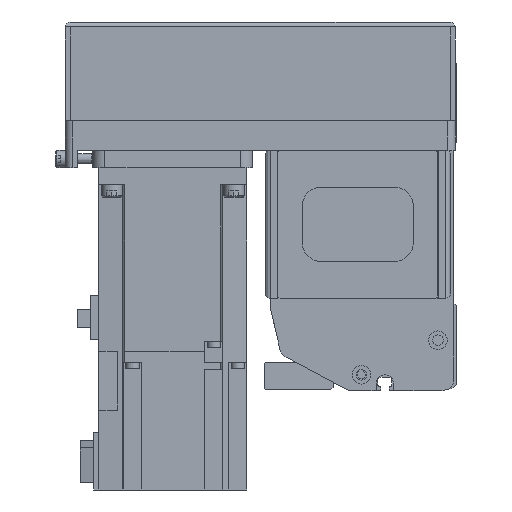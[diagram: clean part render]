
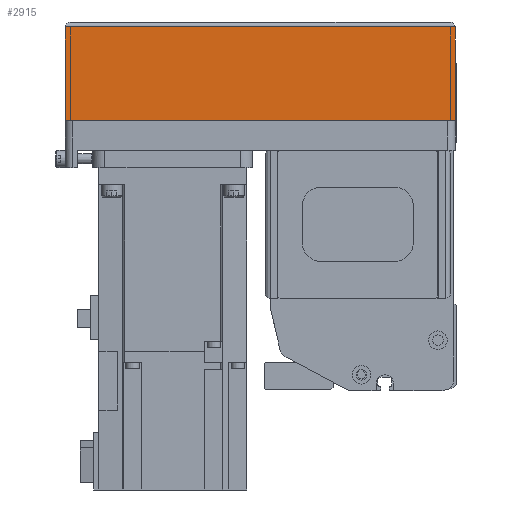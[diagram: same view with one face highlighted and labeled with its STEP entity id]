
A CAD part, left-side view. The second image highlights one B-rep face of the part: STEP entity #2915.
In plain terms, the highlighted planar face has unit normal (-1, 0, 0) as drawn and (0, 1, 0) by its records, which use the part's own axes.
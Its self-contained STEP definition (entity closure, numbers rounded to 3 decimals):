
#2915 = ADVANCED_FACE( '', ( #6126 ), #6127, .T. );
#6126 = FACE_OUTER_BOUND( '', #9495, .T. );
#6127 = PLANE( '', #9496 );
#9495 = EDGE_LOOP( '', ( #17595, #17596, #17597, #17598 ) );
#9496 = AXIS2_PLACEMENT_3D( '', #17599, #17600, #17601 );
#17595 = ORIENTED_EDGE( '', *, *, #21513, .F. );
#17596 = ORIENTED_EDGE( '', *, *, #22220, .F. );
#17597 = ORIENTED_EDGE( '', *, *, #22221, .T. );
#17598 = ORIENTED_EDGE( '', *, *, #22222, .T. );
#17599 = CARTESIAN_POINT( '', ( -158., 39., -50. ) );
#17600 = DIRECTION( '', ( 0., 1., 0. ) );
#17601 = DIRECTION( '', ( 0., 0., 1. ) );
#21513 = EDGE_CURVE( '', #22902, #24546, #26500, .T. );
#22220 = EDGE_CURVE( '', #25455, #22902, #27378, .T. );
#22221 = EDGE_CURVE( '', #25455, #22444, #27379, .T. );
#22222 = EDGE_CURVE( '', #22444, #24546, #27380, .T. );
#22444 = VERTEX_POINT( '', #27619 );
#22902 = VERTEX_POINT( '', #28329 );
#24546 = VERTEX_POINT( '', #30944 );
#25455 = VERTEX_POINT( '', #32247 );
#26500 = LINE( '', #33865, #33866 );
#27378 = LINE( '', #35142, #35143 );
#27379 = LINE( '', #35144, #35145 );
#27380 = LINE( '', #35146, #35147 );
#27619 = CARTESIAN_POINT( '', ( -158., 39., -12.1 ) );
#28329 = CARTESIAN_POINT( '', ( 0., 39., -50. ) );
#30944 = CARTESIAN_POINT( '', ( 0., 39., -12.1 ) );
#32247 = CARTESIAN_POINT( '', ( -158., 39., -50. ) );
#33865 = CARTESIAN_POINT( '', ( 0., 39., -50. ) );
#33866 = VECTOR( '', #38502, 1000. );
#35142 = CARTESIAN_POINT( '', ( -158., 39., -50. ) );
#35143 = VECTOR( '', #39248, 1000. );
#35144 = CARTESIAN_POINT( '', ( -158., 39., -50. ) );
#35145 = VECTOR( '', #39249, 1000. );
#35146 = CARTESIAN_POINT( '', ( -158., 39., -12.1 ) );
#35147 = VECTOR( '', #39250, 1000. );
#38502 = DIRECTION( '', ( 0., 0., 1. ) );
#39248 = DIRECTION( '', ( 1., 0., 0. ) );
#39249 = DIRECTION( '', ( 0., 0., 1. ) );
#39250 = DIRECTION( '', ( 1., 0., 0. ) );
